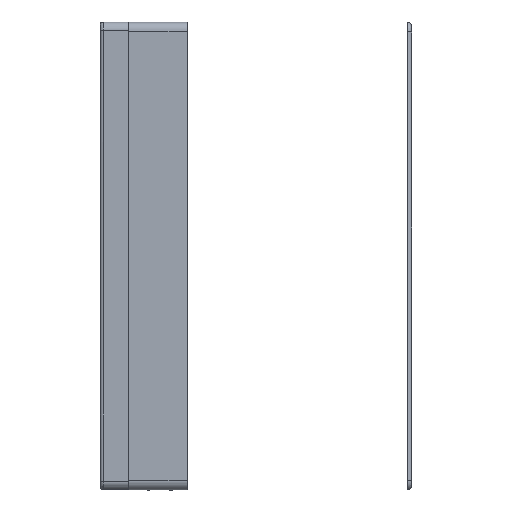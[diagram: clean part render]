
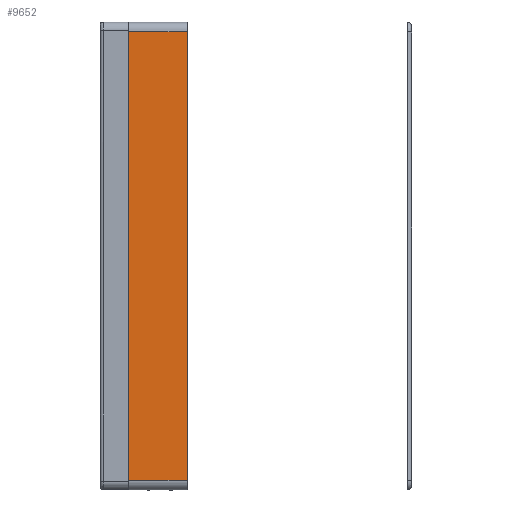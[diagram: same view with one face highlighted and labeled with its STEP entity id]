
A CAD part, left-side view. The second image highlights one B-rep face of the part: STEP entity #9652.
In plain terms, the highlighted planar face has unit normal (-1, 0, 0).
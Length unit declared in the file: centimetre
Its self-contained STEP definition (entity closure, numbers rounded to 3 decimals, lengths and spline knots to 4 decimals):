
#615=LINE('',#19335,#1347);
#616=LINE('',#19354,#1348);
#617=LINE('',#19356,#1349);
#618=LINE('',#19357,#1350);
#1347=VECTOR('',#12513,2.16);
#1348=VECTOR('',#12516,16.595);
#1349=VECTOR('',#12517,2.16);
#1350=VECTOR('',#12518,16.595);
#2021=PLANE('',#10457);
#2908=FACE_OUTER_BOUND('',#3654,.T.);
#3654=EDGE_LOOP('',(#8432,#8433,#8434,#8435));
#5072=VERTEX_POINT('',#19317);
#5073=VERTEX_POINT('',#19334);
#5074=VERTEX_POINT('',#19353);
#5075=VERTEX_POINT('',#19355);
#6282=EDGE_CURVE('',#5072,#5073,#615,.T.);
#6284=EDGE_CURVE('',#5072,#5074,#616,.T.);
#6285=EDGE_CURVE('',#5074,#5075,#617,.T.);
#6286=EDGE_CURVE('',#5073,#5075,#618,.F.);
#8432=ORIENTED_EDGE('',*,*,#6284,.T.);
#8433=ORIENTED_EDGE('',*,*,#6285,.T.);
#8434=ORIENTED_EDGE('',*,*,#6286,.F.);
#8435=ORIENTED_EDGE('',*,*,#6282,.F.);
#9652=ADVANCED_FACE('',(#2908),#2021,.T.);
#10457=AXIS2_PLACEMENT_3D('',#19352,#12514,#12515);
#12513=DIRECTION('',(0.,1.,0.));
#12514=DIRECTION('center_axis',(-1.,0.,0.));
#12515=DIRECTION('ref_axis',(0.,0.,
1.));
#12516=DIRECTION('',(0.,0.,1.));
#12517=DIRECTION('',(0.,1.,0.));
#12518=DIRECTION('',(0.,0.,-1.));
#19317=CARTESIAN_POINT('',(-2.4399,-0.1608,17.4398));
#19334=CARTESIAN_POINT('',(-2.4399,1.9992,17.4398));
#19335=CARTESIAN_POINT('',(-2.4399,-0.0008,17.4398));
#19352=CARTESIAN_POINT('Origin',(-2.4399,-0.0008,
17.4398));
#19353=CARTESIAN_POINT('',(-2.4399,-0.1608,34.0348));
#19354=CARTESIAN_POINT('',(-2.4399,-0.1608,21.5886));
#19355=CARTESIAN_POINT('',(-2.4399,1.9992,34.0348));
#19356=CARTESIAN_POINT('',(-2.4399,-0.0008,34.0348));
#19357=CARTESIAN_POINT('',(-2.4399,1.9992,21.5886));
